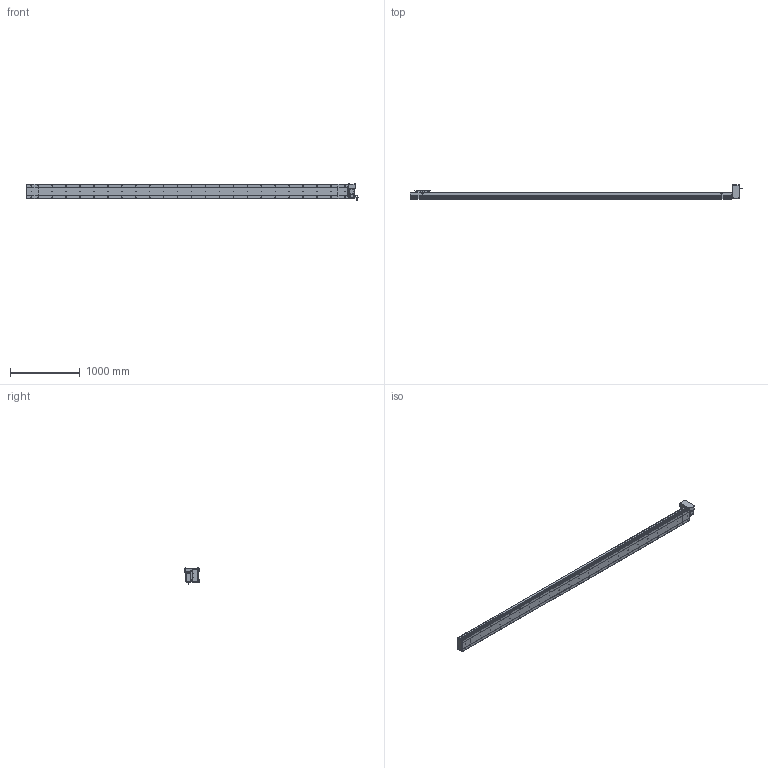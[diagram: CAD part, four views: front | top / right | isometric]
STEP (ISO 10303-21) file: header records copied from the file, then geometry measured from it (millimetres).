
FILE_DESCRIPTION (( 'STEP AP214' ), '1' );
FILE_NAME ('D20 CBH LT S4300.STEP', '2010-06-30T11:32:50', ( 'Conseil Régional Haute-Normandie' ), ( 'Conseil Régional Haute-Normandie' ), 'SwSTEP 2.0', 'SolidWorks 2010', '' );
FILE_SCHEMA (( 'AUTOMOTIVE_DESIGN' ));
Length unit declared in the file: millimetre
Products named in the file (31): Plaque De Serrage D20 LT_Default; Rondelle Cache D20 LT_Default; avant 90BLDC125A-640; Moteur motionking 90BLDC125A-640; Conecteur_Default; ecrou_Default; Cache Support Moteur LT_Default; codeur 90BLDC125-640; corps 90BLDC125A-640; Support moteur LT_Default; vis M5 L30_Default; Conecteur2_Default; Couvercle_Default; Corp Tail D20+100_Default; Tail D20+100_Default; vis M5 L15_Default; Plaque De Serrage D20_Default; Chariot D20_Default; vis M5 L47_Default; Support Chariot D20_Default; Glissiere_Default; Couvercle S4300_Default; Corp S4300_Default; Plaque de Bout Tail D20_Default; Corp D20 S4300_Default; Plaque de Bout Head D20 LT_Default; Couvercle LT_Default; Corp Tail D20 LT_Default; D20 CBH LT S4300; Head LT_Default
Assembly tree (66 placements, depth 4):
  D20 CBH LT S4300
    Chariot D20_Default
      vis M5 L15_Default  x8
      Support Chariot D20_Default
      Glissiere_Default
      Chariot D20_Default
    Head LT_Default
      vis M5 L15_Default  x12
      Moteur motionking 90BLDC125A-640
        avant 90BLDC125A-640
        Conecteur_Default
        codeur 90BLDC125-640
        corps 90BLDC125A-640
        Conecteur2_Default
      vis M5 L30_Default  x4
      vis M5 L47_Default  x4
      ecrou_Default  x4
      Plaque De Serrage D20 LT_Default
      Cache Support Moteur LT_Default
      Rondelle Cache D20 LT_Default  x3
      Plaque de Bout Head D20 LT_Default
      Corp Tail D20 LT_Default
      Couvercle LT_Default
      Support moteur LT_Default
    Tail D20+100_Default
      Plaque De Serrage D20_Default
      vis M5 L15_Default  x6
      Couvercle_Default
      Plaque de Bout Tail D20_Default
      Corp Tail D20+100_Default
    Corp D20 S4300_Default
      Couvercle S4300_Default
      Corp S4300_Default
Bounding box: 4763.45 x 202.5 x 229.7 mm (x, y, z)
Volume: 31376915 mm3; surface area: 5979751.6 mm2
Topology: 103 solids, 103 shells, 3894 faces, 9710 edges, 6316 vertices
Faces by surface type: plane 2137, bspline 806, cylinder 788, torus 91, cone 68, sphere 4
Entity records: 163918 total; most frequent: CARTESIAN_POINT 83764, ORIENTED_EDGE 15888, DIRECTION 12264, EDGE_CURVE 7944, VERTEX_POINT 5260, VECTOR 5036, LINE 5036, AXIS2_PLACEMENT_3D 3614
